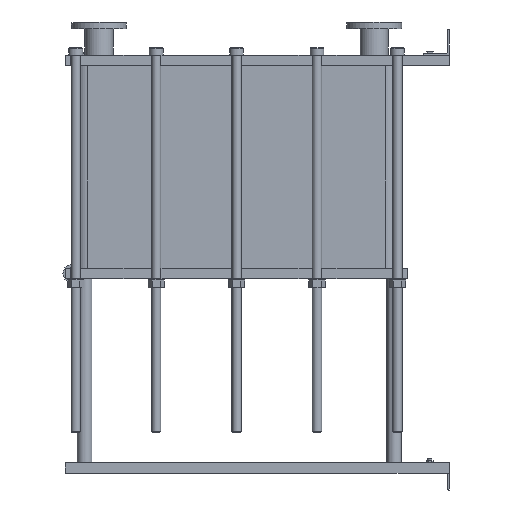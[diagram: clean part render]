
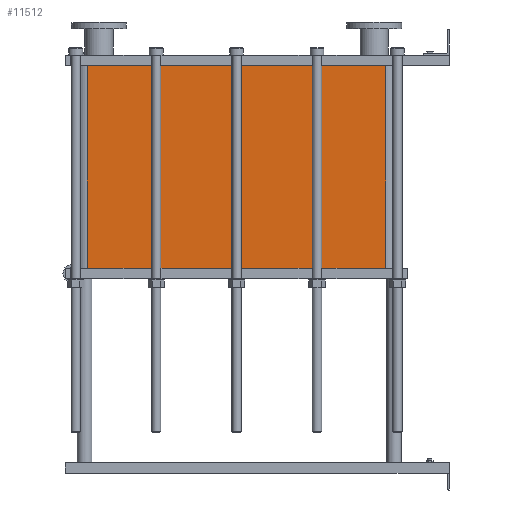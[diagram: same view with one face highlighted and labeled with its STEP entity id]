
A CAD part, left-side view. The second image highlights one B-rep face of the part: STEP entity #11512.
In plain terms, the highlighted planar face has unit normal (-1, 0, 0).
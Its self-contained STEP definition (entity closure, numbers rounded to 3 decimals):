
#1129=LINE('',#23232,#2102);
#1130=LINE('',#23236,#2103);
#1131=LINE('',#23238,#2104);
#1132=LINE('',#23239,#2105);
#2102=VECTOR('',#15887,10.);
#2103=VECTOR('',#15892,10.);
#2104=VECTOR('',#15893,10.);
#2105=VECTOR('',#15894,10.);
#3267=FACE_OUTER_BOUND('',#4093,.T.);
#4093=EDGE_LOOP('',(#10103,#10104,#10105,#10106));
#5642=VERTEX_POINT('',#23229);
#5643=VERTEX_POINT('',#23231);
#5644=VERTEX_POINT('',#23235);
#5645=VERTEX_POINT('',#23237);
#7159=EDGE_CURVE('',#5643,#5642,#1129,.T.);
#7161=EDGE_CURVE('',#5642,#5644,#1130,.T.);
#7162=EDGE_CURVE('',#5645,#5644,#1131,.T.);
#7163=EDGE_CURVE('',#5645,#5643,#1132,.T.);
#10103=ORIENTED_EDGE('',*,*,#7161,.T.);
#10104=ORIENTED_EDGE('',*,*,#7162,.F.);
#10105=ORIENTED_EDGE('',*,*,#7163,.T.);
#10106=ORIENTED_EDGE('',*,*,#7159,.T.);
#10857=PLANE('',#12751);
#11512=ADVANCED_FACE('',(#3267),#10857,.T.);
#12751=AXIS2_PLACEMENT_3D('',#23234,#15890,#15891);
#15887=DIRECTION('',(0.,0.,-1.));
#15890=DIRECTION('center_axis',(-1.,0.,0.));
#15891=DIRECTION('ref_axis',(0.,1.,0.));
#15892=DIRECTION('',(0.,-1.,0.));
#15893=DIRECTION('',(0.,0.,-1.));
#15894=DIRECTION('',(0.,1.,0.));
#23229=CARTESIAN_POINT('',(-200.,1414.,-793.5));
#23231=CARTESIAN_POINT('',(-200.,1414.,0.));
#23232=CARTESIAN_POINT('',(-200.,1414.,0.));
#23234=CARTESIAN_POINT('Origin',(-200.,248.,0.));
#23235=CARTESIAN_POINT('',(-200.,248.,-793.5));
#23236=CARTESIAN_POINT('',(-200.,539.5,-793.5));
#23237=CARTESIAN_POINT('',(-200.,248.,0.));
#23238=CARTESIAN_POINT('',(-200.,248.,0.));
#23239=CARTESIAN_POINT('',(-200.,248.,0.));
